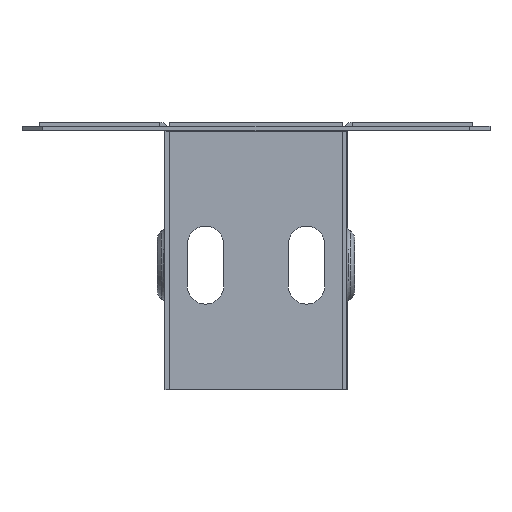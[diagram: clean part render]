
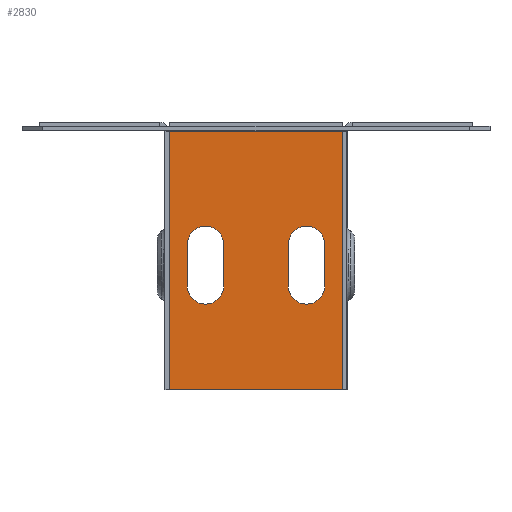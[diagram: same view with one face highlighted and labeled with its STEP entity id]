
A CAD part, left-side view. The second image highlights one B-rep face of the part: STEP entity #2830.
In plain terms, the highlighted planar face has unit normal (-1, 0, 0) as drawn and (0, 1, 0) by its records, which use the part's own axes.
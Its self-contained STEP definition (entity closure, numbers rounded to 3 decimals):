
#218 = ORIENTED_EDGE ( 'NONE', *, *, #1758, .T. ) ;
#227 = EDGE_CURVE ( 'NONE', #1507, #2323, #2338, .T. ) ;
#251 = VERTEX_POINT ( 'NONE', #3177 ) ;
#267 = ORIENTED_EDGE ( 'NONE', *, *, #2257, .F. ) ;
#311 = VECTOR ( 'NONE', #3081, 1000. ) ;
#334 = CIRCLE ( 'NONE', #2798, 3.5 ) ;
#426 = AXIS2_PLACEMENT_3D ( 'NONE', #2244, #2250, #2264 ) ;
#461 = ORIENTED_EDGE ( 'NONE', *, *, #3965, .T. ) ;
#536 = DIRECTION ( 'NONE',  ( 0., 0., -1. ) ) ;
#537 = VERTEX_POINT ( 'NONE', #1897 ) ;
#563 = DIRECTION ( 'NONE',  ( 0., 1., 0. ) ) ;
#583 = CARTESIAN_POINT ( 'NONE',  ( 9.7, 0.8, 31.5 ) ) ;
#598 = ORIENTED_EDGE ( 'NONE', *, *, #1411, .T. ) ;
#602 = DIRECTION ( 'NONE',  ( 0., 0., 1. ) ) ;
#604 = AXIS2_PLACEMENT_3D ( 'NONE', #1488, #1165, #536 ) ;
#680 = DIRECTION ( 'NONE',  ( 0., -1., 0. ) ) ;
#708 = DIRECTION ( 'NONE',  ( 0., 0., 1. ) ) ;
#734 = CARTESIAN_POINT ( 'NONE',  ( -9.7, 0.8, 31.5 ) ) ;
#753 = VERTEX_POINT ( 'NONE', #4401 ) ;
#786 = FACE_OUTER_BOUND ( 'NONE', #2723, .T. ) ;
#882 = VECTOR ( 'NONE', #3854, 1000. ) ;
#939 = FACE_BOUND ( 'NONE', #2811, .T. ) ;
#1002 = PLANE ( 'NONE',  #604 ) ;
#1010 = VECTOR ( 'NONE', #2230, 1000. ) ;
#1075 = VECTOR ( 'NONE', #3374, 1000. ) ;
#1153 = LINE ( 'NONE', #2178, #1010 ) ;
#1165 = DIRECTION ( 'NONE',  ( 0., -1., 0. ) ) ;
#1233 = VECTOR ( 'NONE', #2864, 1000. ) ;
#1240 = DIRECTION ( 'NONE',  ( 0., 0., -1. ) ) ;
#1402 = VECTOR ( 'NONE', #1240, 1000. ) ;
#1411 = EDGE_CURVE ( 'NONE', #3747, #537, #334, .T. ) ;
#1478 = VECTOR ( 'NONE', #5271, 1000. ) ;
#1488 = CARTESIAN_POINT ( 'NONE',  ( 16.7, 0.8, 0. ) ) ;
#1507 = VERTEX_POINT ( 'NONE', #6246 ) ;
#1575 = CARTESIAN_POINT ( 'NONE',  ( -13.2, 0.8, 31.5 ) ) ;
#1613 = CARTESIAN_POINT ( 'NONE',  ( 16.7, 0.8, 51.5 ) ) ;
#1624 = AXIS2_PLACEMENT_3D ( 'NONE', #3087, #3093, #3111 ) ;
#1697 = EDGE_CURVE ( 'NONE', #3773, #4355, #5190, .T. ) ;
#1722 = ORIENTED_EDGE ( 'NONE', *, *, #4584, .T. ) ;
#1736 = EDGE_CURVE ( 'NONE', #251, #2675, #3868, .T. ) ;
#1758 = EDGE_CURVE ( 'NONE', #4355, #5171, #2225, .T. ) ;
#1866 = CARTESIAN_POINT ( 'NONE',  ( 6.2, 0.8, 31.5 ) ) ;
#1897 = CARTESIAN_POINT ( 'NONE',  ( -9.7, 0.8, 35. ) ) ;
#1926 = CARTESIAN_POINT ( 'NONE',  ( -16.7, 0.8, 0. ) ) ;
#1953 = DIRECTION ( 'NONE',  ( 0., 0., 1. ) ) ;
#1964 = CARTESIAN_POINT ( 'NONE',  ( -13.2, 0.8, 23.5 ) ) ;
#1969 = CARTESIAN_POINT ( 'NONE',  ( 13.2, 0.8, 23.5 ) ) ;
#1976 = ORIENTED_EDGE ( 'NONE', *, *, #3170, .T. ) ;
#2136 = ORIENTED_EDGE ( 'NONE', *, *, #1736, .T. ) ;
#2178 = CARTESIAN_POINT ( 'NONE',  ( 13.2, 0.8, 31.5 ) ) ;
#2209 = CIRCLE ( 'NONE', #5639, 3.5 ) ;
#2225 = CIRCLE ( 'NONE', #426, 3.5 ) ;
#2230 = DIRECTION ( 'NONE',  ( 0., 0., -1. ) ) ;
#2244 = CARTESIAN_POINT ( 'NONE',  ( -9.7, 0.8, 23.5 ) ) ;
#2250 = DIRECTION ( 'NONE',  ( 0., -1., 0. ) ) ;
#2257 = EDGE_CURVE ( 'NONE', #3717, #753, #3699, .T. ) ;
#2264 = DIRECTION ( 'NONE',  ( 0., 0., 1. ) ) ;
#2323 = VERTEX_POINT ( 'NONE', #5982 ) ;
#2338 = CIRCLE ( 'NONE', #1624, 3.5 ) ;
#2343 = ORIENTED_EDGE ( 'NONE', *, *, #1697, .T. ) ;
#2366 = LINE ( 'NONE', #1866, #1075 ) ;
#2370 = CARTESIAN_POINT ( 'NONE',  ( 16.7, 0.8, 1.8 ) ) ;
#2384 = VECTOR ( 'NONE', #1953, 1000. ) ;
#2513 = CARTESIAN_POINT ( 'NONE',  ( 16.7, 0.8, 51.5 ) ) ;
#2532 = EDGE_CURVE ( 'NONE', #3336, #3717, #1153, .T. ) ;
#2613 = CIRCLE ( 'NONE', #4740, 3.5 ) ;
#2649 = EDGE_LOOP ( 'NONE', ( #598, #1722, #2343, #218, #461 ) ) ;
#2675 = VERTEX_POINT ( 'NONE', #5102 ) ;
#2719 = CARTESIAN_POINT ( 'NONE',  ( 13.2, 0.8, 31.5 ) ) ;
#2723 = EDGE_LOOP ( 'NONE', ( #2136, #3242, #2951, #1976 ) ) ;
#2778 = CARTESIAN_POINT ( 'NONE',  ( -9.7, 0.8, 31.5 ) ) ;
#2798 = AXIS2_PLACEMENT_3D ( 'NONE', #734, #680, #708 ) ;
#2811 = EDGE_LOOP ( 'NONE', ( #3547, #5095, #5320, #6209, #267 ) ) ;
#2824 = EDGE_CURVE ( 'NONE', #2323, #3336, #2209, .T. ) ;
#2830 = ADVANCED_FACE ( 'NONE', ( #786, #939, #5805 ), #1002, .F. ) ;
#2864 = DIRECTION ( 'NONE',  ( 0., 0., 1. ) ) ;
#2894 = CARTESIAN_POINT ( 'NONE',  ( -13.2, 0.8, 31.5 ) ) ;
#2910 = CARTESIAN_POINT ( 'NONE',  ( -6.2, 0.8, 31.5 ) ) ;
#2951 = ORIENTED_EDGE ( 'NONE', *, *, #3264, .F. ) ;
#2983 = CARTESIAN_POINT ( 'NONE',  ( -6.2, 0.8, 31.5 ) ) ;
#3081 = DIRECTION ( 'NONE',  ( -1., 0., 0. ) ) ;
#3087 = CARTESIAN_POINT ( 'NONE',  ( 9.7, 0.8, 31.5 ) ) ;
#3093 = DIRECTION ( 'NONE',  ( 0., 1., 0. ) ) ;
#3111 = DIRECTION ( 'NONE',  ( 0., 0., 1. ) ) ;
#3170 = EDGE_CURVE ( 'NONE', #3451, #251, #4106, .T. ) ;
#3177 = CARTESIAN_POINT ( 'NONE',  ( -16.7, 0.8, 1.8 ) ) ;
#3242 = ORIENTED_EDGE ( 'NONE', *, *, #5116, .F. ) ;
#3264 = EDGE_CURVE ( 'NONE', #3451, #4939, #3483, .T. ) ;
#3270 = DIRECTION ( 'NONE',  ( 0., 0., 1. ) ) ;
#3336 = VERTEX_POINT ( 'NONE', #2719 ) ;
#3374 = DIRECTION ( 'NONE',  ( 0., 0., 1. ) ) ;
#3451 = VERTEX_POINT ( 'NONE', #2370 ) ;
#3483 = LINE ( 'NONE', #4027, #882 ) ;
#3547 = ORIENTED_EDGE ( 'NONE', *, *, #2532, .F. ) ;
#3699 = CIRCLE ( 'NONE', #5858, 3.5 ) ;
#3717 = VERTEX_POINT ( 'NONE', #1969 ) ;
#3747 = VERTEX_POINT ( 'NONE', #2910 ) ;
#3773 = VERTEX_POINT ( 'NONE', #2894 ) ;
#3854 = DIRECTION ( 'NONE',  ( 0., 0., 1. ) ) ;
#3868 = LINE ( 'NONE', #1926, #2384 ) ;
#3965 = EDGE_CURVE ( 'NONE', #5171, #3747, #5179, .T. ) ;
#4027 = CARTESIAN_POINT ( 'NONE',  ( 16.7, 0.8, 0. ) ) ;
#4106 = LINE ( 'NONE', #5244, #1478 ) ;
#4355 = VERTEX_POINT ( 'NONE', #1964 ) ;
#4401 = CARTESIAN_POINT ( 'NONE',  ( 6.2, 0.8, 23.5 ) ) ;
#4584 = EDGE_CURVE ( 'NONE', #537, #3773, #2613, .T. ) ;
#4740 = AXIS2_PLACEMENT_3D ( 'NONE', #2778, #6131, #3270 ) ;
#4939 = VERTEX_POINT ( 'NONE', #2513 ) ;
#5095 = ORIENTED_EDGE ( 'NONE', *, *, #2824, .F. ) ;
#5102 = CARTESIAN_POINT ( 'NONE',  ( -16.7, 0.8, 51.5 ) ) ;
#5116 = EDGE_CURVE ( 'NONE', #4939, #2675, #5539, .T. ) ;
#5171 = VERTEX_POINT ( 'NONE', #6000 ) ;
#5179 = LINE ( 'NONE', #2983, #1233 ) ;
#5190 = LINE ( 'NONE', #1575, #1402 ) ;
#5244 = CARTESIAN_POINT ( 'NONE',  ( 16.7, 0.8, 1.8 ) ) ;
#5271 = DIRECTION ( 'NONE',  ( -1., 0., 0. ) ) ;
#5279 = CARTESIAN_POINT ( 'NONE',  ( 9.7, 0.8, 23.5 ) ) ;
#5289 = DIRECTION ( 'NONE',  ( 0., 1., 0. ) ) ;
#5294 = DIRECTION ( 'NONE',  ( 0., 0., 1. ) ) ;
#5320 = ORIENTED_EDGE ( 'NONE', *, *, #227, .F. ) ;
#5513 = EDGE_CURVE ( 'NONE', #753, #1507, #2366, .T. ) ;
#5539 = LINE ( 'NONE', #1613, #311 ) ;
#5639 = AXIS2_PLACEMENT_3D ( 'NONE', #583, #563, #602 ) ;
#5805 = FACE_BOUND ( 'NONE', #2649, .T. ) ;
#5858 = AXIS2_PLACEMENT_3D ( 'NONE', #5279, #5289, #5294 ) ;
#5982 = CARTESIAN_POINT ( 'NONE',  ( 9.7, 0.8, 35. ) ) ;
#6000 = CARTESIAN_POINT ( 'NONE',  ( -6.2, 0.8, 23.5 ) ) ;
#6131 = DIRECTION ( 'NONE',  ( 0., -1., 0. ) ) ;
#6209 = ORIENTED_EDGE ( 'NONE', *, *, #5513, .F. ) ;
#6246 = CARTESIAN_POINT ( 'NONE',  ( 6.2, 0.8, 31.5 ) ) ;
